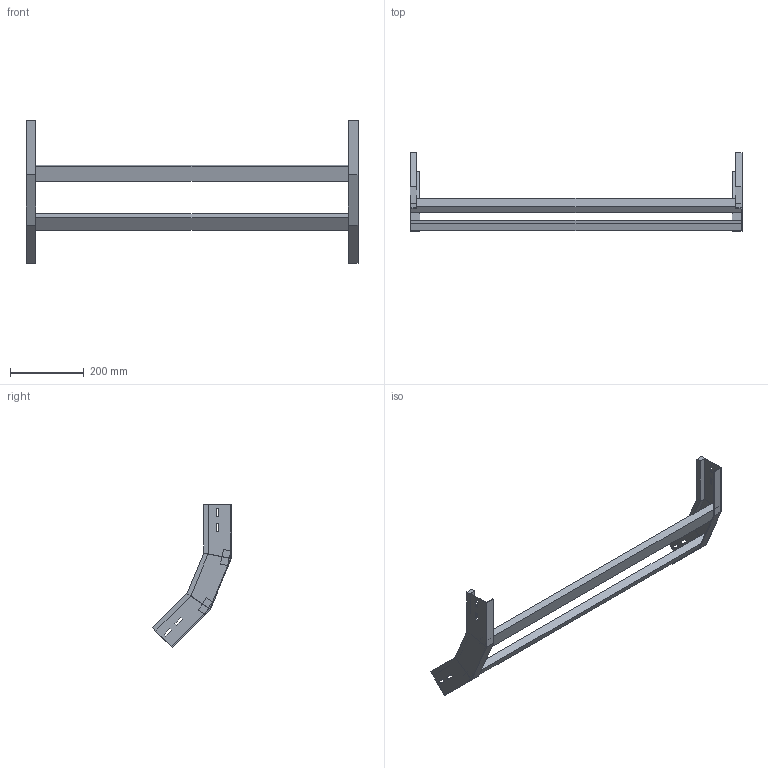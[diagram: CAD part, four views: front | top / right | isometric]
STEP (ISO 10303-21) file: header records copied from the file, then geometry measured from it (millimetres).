
FILE_DESCRIPTION (( 'STEP AP214' ), '1' );
FILE_NAME ('A2X31B3C900XX.step', '2025-03-20T10:09:19', ( '' ), ( '' ), 'SwSTEP 2.0', 'SolidWorks 2023', '' );
FILE_SCHEMA (( 'AUTOMOTIVE_DESIGN' ));
Length unit declared in the file: millimetre
Products named in the file (3): TRAVERSINO_900; LONGH.SALITA_45°_H75_R300; A2X31B3C900XX
Assembly tree (4 placements, depth 2):
  A2X31B3C900XX
    LONGH.SALITA_45°_H75_R300  x2
    TRAVERSINO_900  x2
Bounding box: 900 x 213.56 x 387.55 mm (x, y, z)
Volume: 1765315.1 mm3; surface area: 415850.7 mm2
Topology: 4 solids, 4 shells, 96 faces, 232 edges, 144 vertices
Faces by surface type: plane 96
Entity records: 1472 total; most frequent: CARTESIAN_POINT 243, ORIENTED_EDGE 232, DIRECTION 226, VECTOR 116, EDGE_CURVE 116, LINE 116, VERTEX_POINT 72, EDGE_LOOP 56
